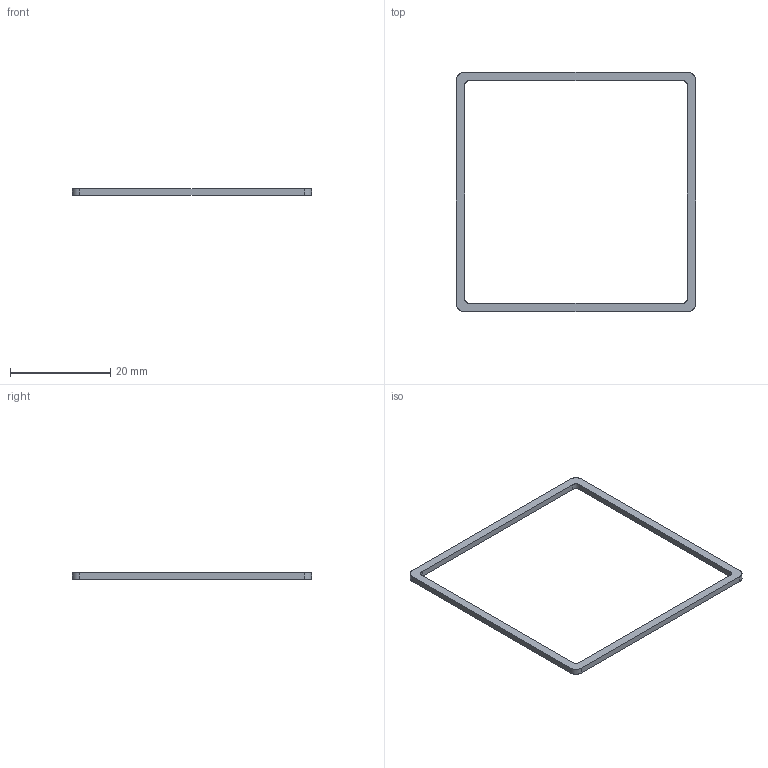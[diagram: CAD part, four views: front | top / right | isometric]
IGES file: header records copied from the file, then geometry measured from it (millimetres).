
Start section: SolidWorks IGES file using analytic representation for surfaces
Global section: file name: 僈僗働僢僩A_BCS2_141024.IGS; native system: SolidWorks 2022; preprocessor: SolidWorks 2022; author: kawanishi; date: 251224.160424; units: millimetre
Bounding box: 47.8 x 47.8 x 1.2 mm (x, y, z)
Surface area: 1044.9 mm2 (no closed solid volume)
Topology: 0 solids, 0 shells, 18 faces, 208 edges, 208 vertices
Faces by surface type: bspline 10, revolution 8
